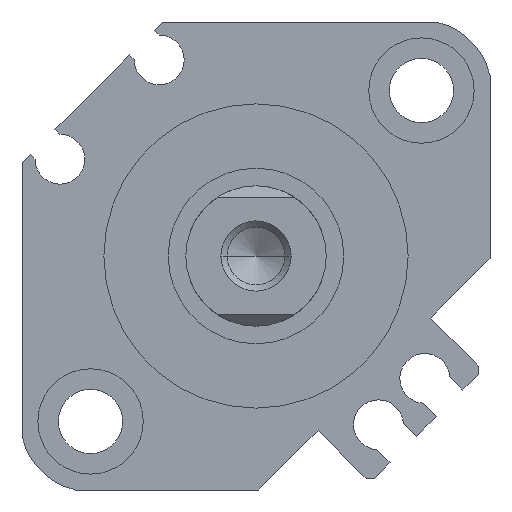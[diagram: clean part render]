
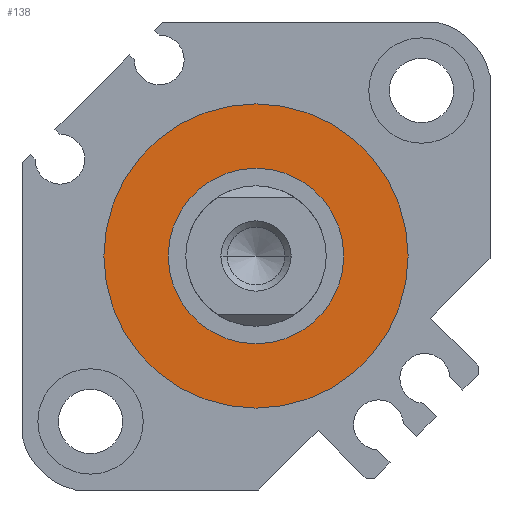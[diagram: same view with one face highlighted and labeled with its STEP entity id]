
A CAD part, left-side view. The second image highlights one B-rep face of the part: STEP entity #138.
In plain terms, the highlighted planar face has unit normal (-1, 0, 0).
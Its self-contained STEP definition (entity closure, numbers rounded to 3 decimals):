
#138 = ADVANCED_FACE ( 'NONE', ( #298, #2882 ), #282, .F. ) ;
#179 = EDGE_CURVE ( 'NONE', #2472, #3168, #1913, .T. ) ;
#282 = PLANE ( 'NONE',  #470 ) ;
#298 = FACE_OUTER_BOUND ( 'NONE', #1386, .T. ) ;
#301 = AXIS2_PLACEMENT_3D ( 'NONE', #2072, #3117, #2011 ) ;
#312 = EDGE_LOOP ( 'NONE', ( #1056, #2327 ) ) ;
#322 = DIRECTION ( 'NONE',  ( 0., 0., -1. ) ) ;
#470 = AXIS2_PLACEMENT_3D ( 'NONE', #1024, #1575, #522 ) ;
#522 = DIRECTION ( 'NONE',  ( 0., 1., 0. ) ) ;
#651 = CARTESIAN_POINT ( 'NONE',  ( 1.9, 0., 13. ) ) ;
#670 = CARTESIAN_POINT ( 'NONE',  ( 1.9, 0., -7.5 ) ) ;
#695 = AXIS2_PLACEMENT_3D ( 'NONE', #3000, #2450, #1890 ) ;
#799 = VERTEX_POINT ( 'NONE', #651 ) ;
#1024 = CARTESIAN_POINT ( 'NONE',  ( 1.9, 0., 0. ) ) ;
#1034 = CARTESIAN_POINT ( 'NONE',  ( 1.9, 0., 0. ) ) ;
#1056 = ORIENTED_EDGE ( 'NONE', *, *, #1969, .T. ) ;
#1118 = DIRECTION ( 'NONE',  ( 1., 0., 0. ) ) ;
#1342 = CIRCLE ( 'NONE', #1894, 13. ) ;
#1348 = EDGE_CURVE ( 'NONE', #2863, #799, #1812, .T. ) ;
#1386 = EDGE_LOOP ( 'NONE', ( #3075, #1945 ) ) ;
#1512 = CIRCLE ( 'NONE', #301, 7.5 ) ;
#1515 = DIRECTION ( 'NONE',  ( 1., 0., 0. ) ) ;
#1575 = DIRECTION ( 'NONE',  ( 1., 0., 0. ) ) ;
#1582 = AXIS2_PLACEMENT_3D ( 'NONE', #1034, #1515, #1822 ) ;
#1812 = CIRCLE ( 'NONE', #1582, 13. ) ;
#1822 = DIRECTION ( 'NONE',  ( 0., 0., -1. ) ) ;
#1890 = DIRECTION ( 'NONE',  ( 0., 0., -1. ) ) ;
#1894 = AXIS2_PLACEMENT_3D ( 'NONE', #2665, #1118, #322 ) ;
#1913 = CIRCLE ( 'NONE', #695, 7.5 ) ;
#1945 = ORIENTED_EDGE ( 'NONE', *, *, #1348, .F. ) ;
#1969 = EDGE_CURVE ( 'NONE', #3168, #2472, #1512, .T. ) ;
#2011 = DIRECTION ( 'NONE',  ( 0., 0., -1. ) ) ;
#2072 = CARTESIAN_POINT ( 'NONE',  ( 1.9, 0., 0. ) ) ;
#2126 = CARTESIAN_POINT ( 'NONE',  ( 1.9, 0., 7.5 ) ) ;
#2327 = ORIENTED_EDGE ( 'NONE', *, *, #179, .T. ) ;
#2450 = DIRECTION ( 'NONE',  ( 1., 0., 0. ) ) ;
#2472 = VERTEX_POINT ( 'NONE', #670 ) ;
#2665 = CARTESIAN_POINT ( 'NONE',  ( 1.9, 0., 0. ) ) ;
#2769 = EDGE_CURVE ( 'NONE', #799, #2863, #1342, .T. ) ;
#2863 = VERTEX_POINT ( 'NONE', #3288 ) ;
#2882 = FACE_BOUND ( 'NONE', #312, .T. ) ;
#3000 = CARTESIAN_POINT ( 'NONE',  ( 1.9, 0., 0. ) ) ;
#3075 = ORIENTED_EDGE ( 'NONE', *, *, #2769, .F. ) ;
#3117 = DIRECTION ( 'NONE',  ( 1., 0., 0. ) ) ;
#3168 = VERTEX_POINT ( 'NONE', #2126 ) ;
#3288 = CARTESIAN_POINT ( 'NONE',  ( 1.9, 0., -13. ) ) ;
